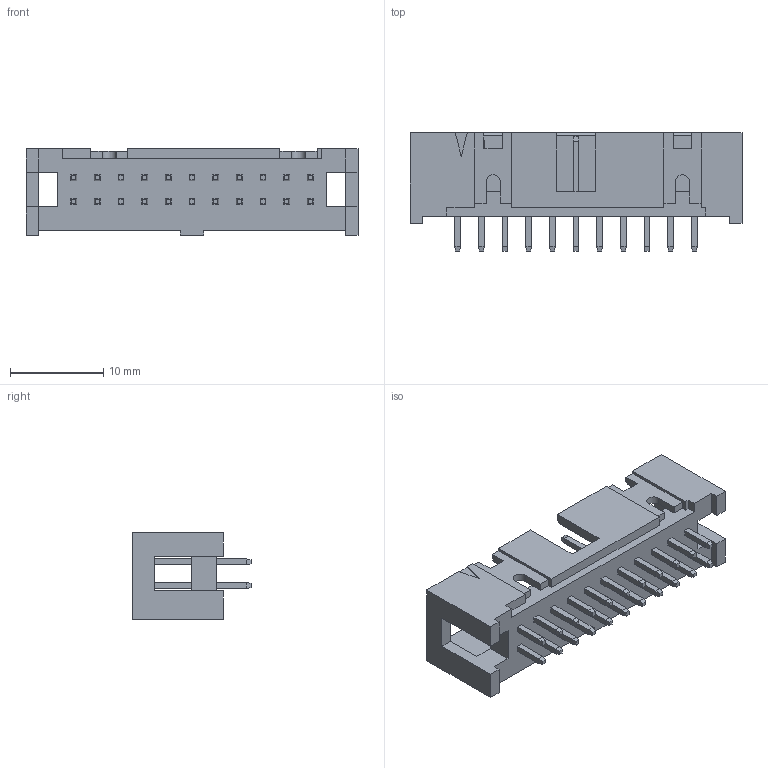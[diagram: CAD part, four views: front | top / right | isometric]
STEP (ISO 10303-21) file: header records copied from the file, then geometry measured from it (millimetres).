
FILE_DESCRIPTION (( 'STEP AP203' ), '1' );
FILE_NAME ('HC-JN254-2-11-Z-9.7-XX (潠籟2.54 邧齬 眻渀-HCTL).STEP', '2025-08-16T01:07:19', ( '' ), ( '' ), 'SwSTEP 2.0', 'SolidWorks 2025', '' );
FILE_SCHEMA (( 'CONFIG_CONTROL_DESIGN' ));
Length unit declared in the file: millimetre
Products named in the file (1): HC-JN254-2-11-Z-9.7-XX (简牛2.54 双排 直针-HCTL)
Bounding box: 35.64 x 12.7 x 9.3 mm (x, y, z)
Volume: 1353.1 mm3; surface area: 2423.1 mm2
Topology: 1 solids, 1 shells, 474 faces, 1124 edges, 688 vertices
Faces by surface type: plane 472, cylinder 2
Entity records: 13213 total; most frequent: CARTESIAN_POINT 2287, ORIENTED_EDGE 2248, DIRECTION 2078, EDGE_CURVE 1124, LINE 1120, VECTOR 1120, VERTEX_POINT 688, EDGE_LOOP 518
